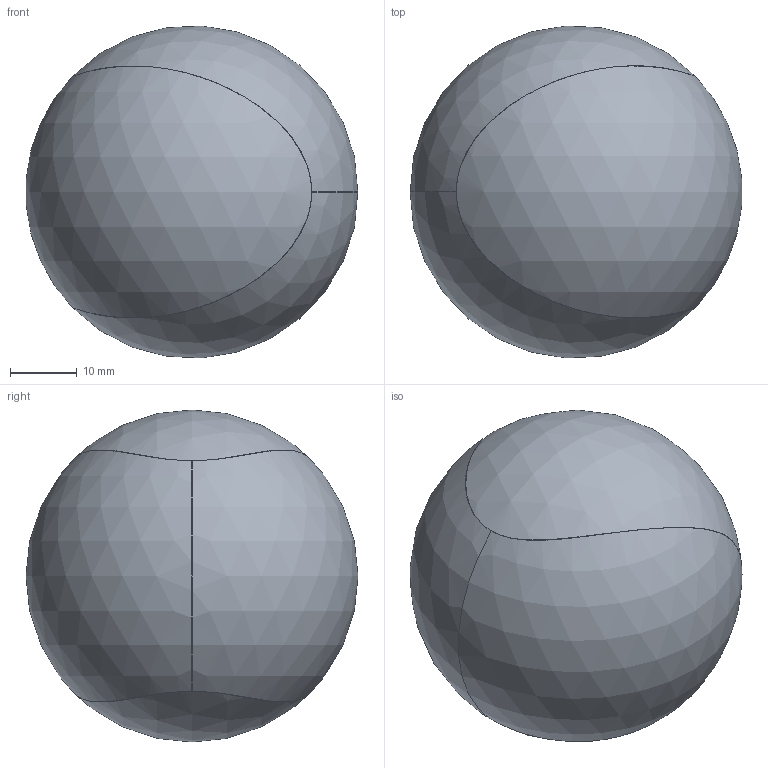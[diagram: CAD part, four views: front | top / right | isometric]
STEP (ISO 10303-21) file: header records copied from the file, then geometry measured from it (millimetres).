
FILE_DESCRIPTION((''),'2;1');
FILE_NAME('D:\999\Beispiele\Bauteil\Kugel-vier-Viertel-rs-060818.stp','2006-08-19T02:21:04',('Roland'),(''),'Autodesk Inventor 10','Autodesk Inventor 10','');
FILE_SCHEMA(('AUTOMOTIVE_DESIGN { 1 0 10303 214 1 1 1 1 }'));
Length unit declared in the file: millimetre
Products named in the file (2): Kugel-vier-Viertel-rs-060818; Kugelsegment-halb-rs
Assembly tree (4 placements, depth 2):
  Kugel-vier-Viertel-rs-060818
    Kugelsegment-halb-rs  x4
Bounding box: 49.82 x 49.91 x 49.91 mm (x, y, z)
Volume: 65389.5 mm3; surface area: 15186.7 mm2
Topology: 4 solids, 4 shells, 16 faces, 32 edges, 16 vertices
Faces by surface type: bspline 8, sphere 4, plane 4
Entity records: 830 total; most frequent: CARTESIAN_POINT 702, DIRECTION 18, ORIENTED_EDGE 12, AXIS2_PLACEMENT_3D 9, PRODUCT_DEFINITION_SHAPE 6, EDGE_CURVE 6, B_SPLINE_CURVE_WITH_KNOTS 5, VERTEX_POINT 4
